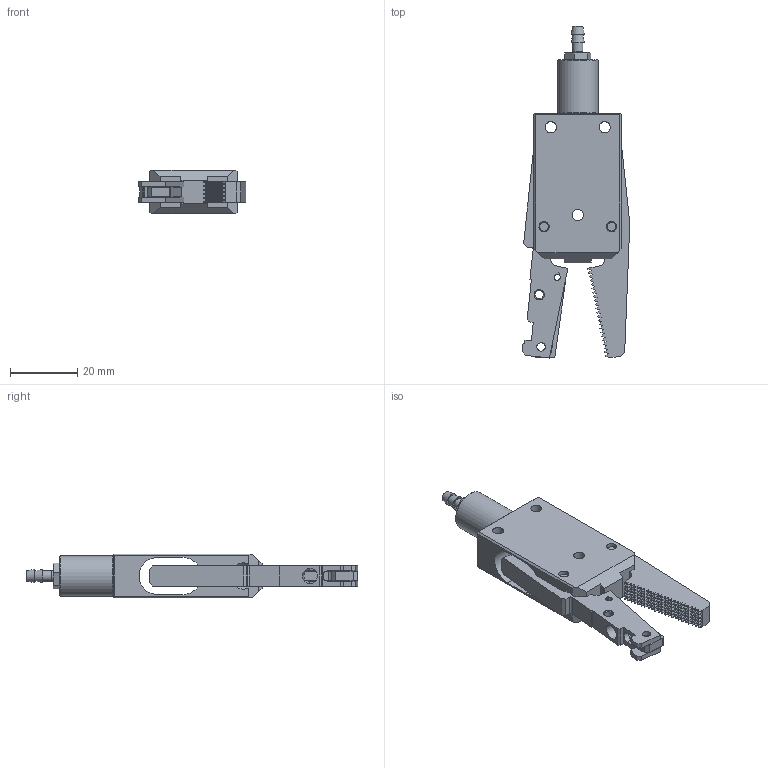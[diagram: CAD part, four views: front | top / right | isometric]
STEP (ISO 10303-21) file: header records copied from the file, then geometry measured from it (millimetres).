
FILE_DESCRIPTION(/* description */ (''),/* implementation_level */ '2;1');
FILE_NAME(/* name */ 'GRM12A-C.stp',/* time_stamp */ '2023-03-08T10:05:01+08:00',/* author */ (''),/* organization */ (''),/* preprocessor_version */ 'ST-DEVELOPER v16',/* originating_system */ 'SIEMENS PLM Software NX 10.0',/* authorisation */ '');
FILE_SCHEMA (('AUTOMOTIVE_DESIGN { 1 0 10303 214 3 1 1 1 }'));
Length unit declared in the file: millimetre
Products named in the file (1): Admi115498B06ibw
Bounding box: 31.88 x 98.39 x 13 mm (x, y, z)
Volume: 15072.1 mm3; surface area: 9749.5 mm2
Topology: 1 solids, 1 shells, 824 faces, 1885 edges, 1069 vertices
Faces by surface type: plane 768, cylinder 39, cone 15, bspline 2
Full cylindrical faces by diameter (mm): 2.5 x3, 3 x6, 3.086 x1, 3.3 x3, 4.5 x1, 12 x1
Entity records: 27968 total; most frequent: CARTESIAN_POINT 4084, ORIENTED_EDGE 3700, DIRECTION 3571, EDGE_CURVE 1850, LINE 1713, VECTOR 1713, VERTEX_POINT 1059, AXIS2_PLACEMENT_3D 929
